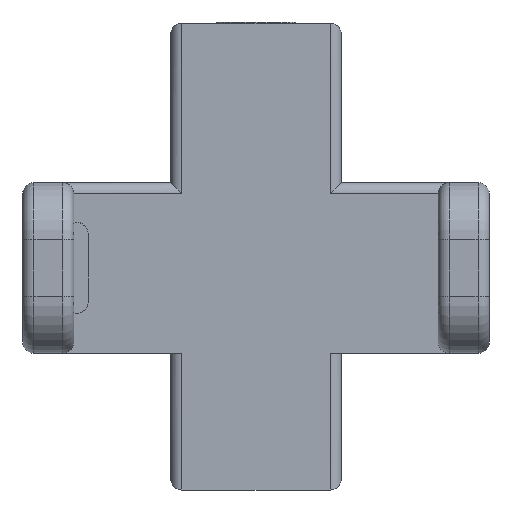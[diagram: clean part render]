
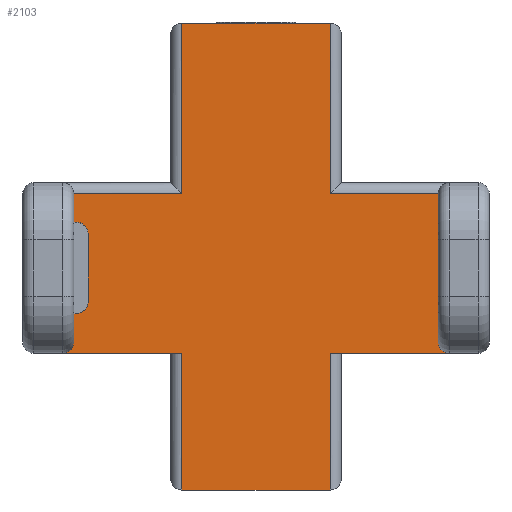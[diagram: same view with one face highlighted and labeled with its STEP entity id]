
A CAD part, left-side view. The second image highlights one B-rep face of the part: STEP entity #2103.
In plain terms, the highlighted planar face has unit normal (-1, 0, 0).
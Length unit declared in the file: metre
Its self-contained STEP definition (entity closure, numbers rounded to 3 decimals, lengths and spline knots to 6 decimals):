
#137=LINE('',#3241,#317);
#160=LINE('',#3297,#340);
#161=LINE('',#3301,#341);
#176=LINE('',#3354,#356);
#203=LINE('',#3424,#383);
#206=LINE('',#3432,#386);
#207=LINE('',#3434,#387);
#208=LINE('',#3437,#388);
#209=LINE('',#3438,#389);
#210=LINE('',#3442,#390);
#211=LINE('',#3444,#391);
#212=LINE('',#3446,#392);
#317=VECTOR('',#2517,1.);
#340=VECTOR('',#2554,1.);
#341=VECTOR('',#2559,1.);
#356=VECTOR('',#2604,1.);
#383=VECTOR('',#2655,1.);
#386=VECTOR('',#2662,1.);
#387=VECTOR('',#2663,1.);
#388=VECTOR('',#2666,1.);
#389=VECTOR('',#2667,1.);
#390=VECTOR('',#2670,1.);
#391=VECTOR('',#2671,1.);
#392=VECTOR('',#2672,1.);
#597=ORIENTED_EDGE('',*,*,#1227,.T.);
#598=ORIENTED_EDGE('',*,*,#1228,.T.);
#599=ORIENTED_EDGE('',*,*,#1134,.T.);
#600=ORIENTED_EDGE('',*,*,#1229,.T.);
#601=ORIENTED_EDGE('',*,*,#1230,.T.);
#602=ORIENTED_EDGE('',*,*,#1163,.T.);
#603=ORIENTED_EDGE('',*,*,#1189,.F.);
#604=ORIENTED_EDGE('',*,*,#1161,.T.);
#605=ORIENTED_EDGE('',*,*,#1231,.T.);
#606=ORIENTED_EDGE('',*,*,#1232,.T.);
#607=ORIENTED_EDGE('',*,*,#1233,.F.);
#608=ORIENTED_EDGE('',*,*,#1234,.T.);
#609=ORIENTED_EDGE('',*,*,#1235,.T.);
#610=ORIENTED_EDGE('',*,*,#1223,.T.);
#1134=EDGE_CURVE('',#1453,#1452,#137,.T.);
#1161=EDGE_CURVE('',#1479,#1478,#160,.T.);
#1163=EDGE_CURVE('',#1480,#1481,#161,.F.);
#1189=EDGE_CURVE('',#1479,#1481,#176,.T.);
#1223=EDGE_CURVE('',#1534,#1533,#203,.T.);
#1227=EDGE_CURVE('',#1533,#1537,#206,.F.);
#1228=EDGE_CURVE('',#1537,#1453,#207,.F.);
#1229=EDGE_CURVE('',#1452,#1538,#1657,.F.);
#1230=EDGE_CURVE('',#1538,#1480,#208,.T.);
#1231=EDGE_CURVE('',#1478,#1539,#209,.T.);
#1232=EDGE_CURVE('',#1539,#1540,#1658,.F.);
#1233=EDGE_CURVE('',#1541,#1540,#210,.T.);
#1234=EDGE_CURVE('',#1541,#1542,#211,.F.);
#1235=EDGE_CURVE('',#1542,#1534,#212,.T.);
#1452=VERTEX_POINT('',#3240);
#1453=VERTEX_POINT('',#3242);
#1478=VERTEX_POINT('',#3296);
#1479=VERTEX_POINT('',#3298);
#1480=VERTEX_POINT('',#3302);
#1481=VERTEX_POINT('',#3303);
#1533=VERTEX_POINT('',#3423);
#1534=VERTEX_POINT('',#3425);
#1537=VERTEX_POINT('',#3433);
#1538=VERTEX_POINT('',#3436);
#1539=VERTEX_POINT('',#3439);
#1540=VERTEX_POINT('',#3441);
#1541=VERTEX_POINT('',#3443);
#1542=VERTEX_POINT('',#3445);
#1657=CIRCLE('',#2279,0.001);
#1658=CIRCLE('',#2280,0.001);
#1765=EDGE_LOOP('',(#597,#598,#599,#600,#601,#602,#603,#604,#605,#606,#607,
#608,#609,#610));
#1915=FACE_BOUND('',#1765,.T.);
#2056=PLANE('',#2278);
#2103=ADVANCED_FACE('',(#1915),#2056,.T.);
#2278=AXIS2_PLACEMENT_3D('',#3431,#2660,#2661);
#2279=AXIS2_PLACEMENT_3D('',#3435,#2664,#2665);
#2280=AXIS2_PLACEMENT_3D('',#3440,#2668,#2669);
#2517=DIRECTION('',(0.,0.,-1.));
#2554=DIRECTION('',(0.,0.,1.));
#2559=DIRECTION('',(0.,0.,1.));
#2604=DIRECTION('',(0.,1.,0.));
#2655=DIRECTION('',(0.,1.,0.));
#2660=DIRECTION('',(-1.,0.,0.));
#2661=DIRECTION('',(0.,0.,1.));
#2662=DIRECTION('',(0.,0.,1.));
#2663=DIRECTION('',(0.,-1.,0.));
#2664=DIRECTION('',(-1.,0.,0.));
#2665=DIRECTION('',(0.,0.,1.));
#2666=DIRECTION('',(0.,-1.,0.));
#2667=DIRECTION('',(0.,-1.,0.));
#2668=DIRECTION('',(-1.,0.,0.));
#2669=DIRECTION('',(0.,0.,1.));
#2670=DIRECTION('',(0.,0.,-1.));
#2671=DIRECTION('',(0.,-1.,0.));
#2672=DIRECTION('',(0.,0.,1.));
#3240=CARTESIAN_POINT('',(0.,0.016,0.013));
#3241=CARTESIAN_POINT('',(0.,0.016,0.027));
#3242=CARTESIAN_POINT('',(0.,0.016,0.026));
#3296=CARTESIAN_POINT('',(0.,-0.0065,0.012));
#3297=CARTESIAN_POINT('',(0.,-0.0065,0.0205));
#3298=CARTESIAN_POINT('',(0.,-0.0065,0.));
#3301=CARTESIAN_POINT('',(0.,0.0065,0.));
#3302=CARTESIAN_POINT('',(0.,0.0065,0.012));
#3303=CARTESIAN_POINT('',(0.,0.0065,0.));
#3354=CARTESIAN_POINT('',(0.,-0.0075,0.));
#3423=CARTESIAN_POINT('',(0.,0.0065,0.041));
#3424=CARTESIAN_POINT('',(0.,-0.0075,0.041));
#3425=CARTESIAN_POINT('',(0.,-0.0065,0.041));
#3431=CARTESIAN_POINT('',(0.,-0.0075,0.0205));
#3432=CARTESIAN_POINT('',(0.,0.0065,0.));
#3433=CARTESIAN_POINT('',(0.,0.0065,0.026));
#3434=CARTESIAN_POINT('',(0.,-0.0075,0.026));
#3435=CARTESIAN_POINT('',(0.,0.017,0.013));
#3436=CARTESIAN_POINT('',(0.,0.017,0.012));
#3437=CARTESIAN_POINT('',(0.,0.,0.012));
#3438=CARTESIAN_POINT('',(0.,0.,0.012));
#3439=CARTESIAN_POINT('',(0.,-0.017,0.012));
#3440=CARTESIAN_POINT('',(0.,-0.017,0.013));
#3441=CARTESIAN_POINT('',(0.,-0.016,0.013));
#3442=CARTESIAN_POINT('',(0.,-0.016,0.027));
#3443=CARTESIAN_POINT('',(0.,-0.016,0.026));
#3444=CARTESIAN_POINT('',(0.,-0.0075,0.026));
#3445=CARTESIAN_POINT('',(0.,-0.0065,0.026));
#3446=CARTESIAN_POINT('',(0.,-0.0065,0.0205));
